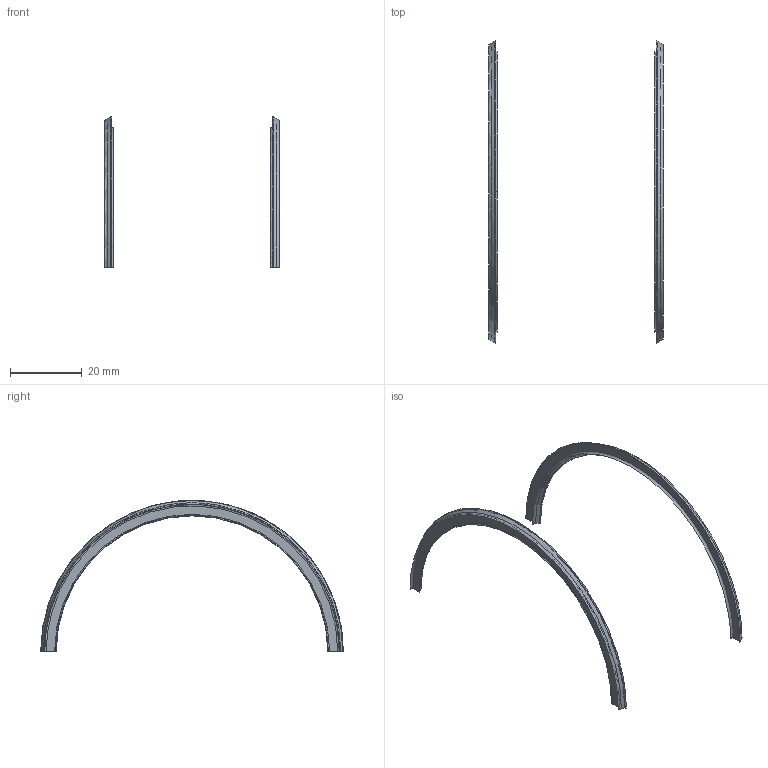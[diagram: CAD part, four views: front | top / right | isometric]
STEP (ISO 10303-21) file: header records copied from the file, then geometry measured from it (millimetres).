
FILE_DESCRIPTION(('Open CASCADE Model'),'2;1');
FILE_NAME('Open CASCADE Shape Model','2026-11-20T06:39:06',('Author'),( 'Open CASCADE'),'Open CASCADE STEP processor 7.8','Open CASCADE 7.8' ,'Unknown');
FILE_SCHEMA(('AUTOMOTIVE_DESIGN { 1 0 10303 214 1 1 1 1 }'));
Length unit declared in the file: millimetre
Products named in the file (3): A02_root_R050_partition_reference; Partition_Xminus; Partition_Xplus
Assembly tree (2 placements, depth 2):
  A02_root_R050_partition_reference
    Partition_Xminus
    Partition_Xplus
Bounding box: 48.91 x 84.64 x 42.32 mm (x, y, z)
Volume: 968.4 mm3; surface area: 3141.1 mm2
Topology: 2 solids, 2 shells, 30 faces, 78 edges, 52 vertices
Faces by surface type: sphere 12, bspline 10, plane 8
Entity records: 6420 total; most frequent: CARTESIAN_POINT 5105, DIRECTION 168, ORIENTED_EDGE 156, PCURVE 156, DEFINITIONAL_REPRESENTATION 156, B_SPLINE_CURVE_WITH_KNOTS 114, EDGE_CURVE 78, SURFACE_CURVE 78
